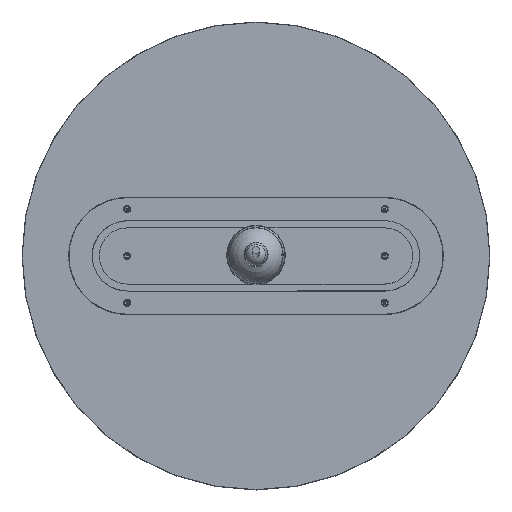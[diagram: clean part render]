
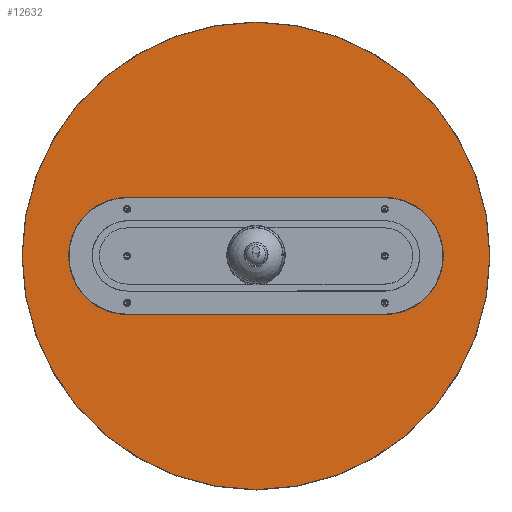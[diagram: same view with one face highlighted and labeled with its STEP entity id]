
A CAD part, top view. The second image highlights one B-rep face of the part: STEP entity #12632.
In plain terms, the highlighted planar face has unit normal (0, 0, 1).
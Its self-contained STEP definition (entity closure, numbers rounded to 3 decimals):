
#12562=CARTESIAN_POINT('',(12873.045,-3335.741,20.));
#12563=DIRECTION('',(0.,0.,1.));
#12564=DIRECTION('',(1.,0.,0.));
#12565=AXIS2_PLACEMENT_3D('',#12562,#12563,#12564);
#12566=PLANE('',#12565);
#12567=CARTESIAN_POINT('',(12928.045,-3360.841,20.));
#12568=VERTEX_POINT('',#12567);
#12569=CARTESIAN_POINT('',(12818.045,-3360.841,20.));
#12570=VERTEX_POINT('',#12569);
#12571=CARTESIAN_POINT('',(12928.045,-3360.841,20.));
#12572=DIRECTION('',(-1.,0.,0.));
#12573=VECTOR('',#12572,110.);
#12574=LINE('',#12571,#12573);
#12575=EDGE_CURVE('',#12568,#12570,#12574,.T.);
#12576=ORIENTED_EDGE('',*,*,#12575,.T.);
#12577=CARTESIAN_POINT('',(12818.045,-3310.641,20.));
#12578=VERTEX_POINT('',#12577);
#12579=CARTESIAN_POINT('',(12818.045,-3335.741,20.));
#12580=DIRECTION('',(-0.,-0.,-1.));
#12581=DIRECTION('',(1.,0.,-0.));
#12582=AXIS2_PLACEMENT_3D('',#12579,#12580,#12581);
#12583=CIRCLE('',#12582,25.1);
#12584=EDGE_CURVE('',#12570,#12578,#12583,.T.);
#12585=ORIENTED_EDGE('',*,*,#12584,.T.);
#12586=CARTESIAN_POINT('',(12928.045,-3310.641,20.));
#12587=VERTEX_POINT('',#12586);
#12588=CARTESIAN_POINT('',(12818.045,-3310.641,20.));
#12589=DIRECTION('',(1.,-0.,0.));
#12590=VECTOR('',#12589,110.);
#12591=LINE('',#12588,#12590);
#12592=EDGE_CURVE('',#12578,#12587,#12591,.T.);
#12593=ORIENTED_EDGE('',*,*,#12592,.T.);
#12594=CARTESIAN_POINT('',(12953.145,-3335.741,20.));
#12595=VERTEX_POINT('',#12594);
#12596=CARTESIAN_POINT('',(12928.045,-3335.741,20.));
#12597=DIRECTION('',(-0.,-0.,-1.));
#12598=DIRECTION('',(1.,0.,-0.));
#12599=AXIS2_PLACEMENT_3D('',#12596,#12597,#12598);
#12600=CIRCLE('',#12599,25.1);
#12601=EDGE_CURVE('',#12587,#12595,#12600,.T.);
#12602=ORIENTED_EDGE('',*,*,#12601,.T.);
#12603=CARTESIAN_POINT('',(12928.045,-3335.741,20.));
#12604=DIRECTION('',(-0.,-0.,-1.));
#12605=DIRECTION('',(1.,0.,-0.));
#12606=AXIS2_PLACEMENT_3D('',#12603,#12604,#12605);
#12607=CIRCLE('',#12606,25.1);
#12608=EDGE_CURVE('',#12595,#12568,#12607,.T.);
#12609=ORIENTED_EDGE('',*,*,#12608,.T.);
#12610=EDGE_LOOP('',(#12576,#12585,#12593,#12602,#12609));
#12611=FACE_BOUND('',#12610,.T.);
#12612=CARTESIAN_POINT('',(12972.945,-3335.741,20.));
#12613=VERTEX_POINT('',#12612);
#12614=CARTESIAN_POINT('',(12773.145,-3335.741,20.));
#12615=VERTEX_POINT('',#12614);
#12616=CARTESIAN_POINT('',(12873.045,-3335.741,20.));
#12617=DIRECTION('',(0.,0.,1.));
#12618=DIRECTION('',(1.,0.,-0.));
#12619=AXIS2_PLACEMENT_3D('',#12616,#12617,#12618);
#12620=CIRCLE('',#12619,99.9);
#12621=EDGE_CURVE('',#12613,#12615,#12620,.T.);
#12622=ORIENTED_EDGE('',*,*,#12621,.T.);
#12623=CARTESIAN_POINT('',(12873.045,-3335.741,20.));
#12624=DIRECTION('',(0.,0.,1.));
#12625=DIRECTION('',(1.,0.,-0.));
#12626=AXIS2_PLACEMENT_3D('',#12623,#12624,#12625);
#12627=CIRCLE('',#12626,99.9);
#12628=EDGE_CURVE('',#12615,#12613,#12627,.T.);
#12629=ORIENTED_EDGE('',*,*,#12628,.T.);
#12630=EDGE_LOOP('',(#12622,#12629));
#12631=FACE_BOUND('',#12630,.T.);
#12632=ADVANCED_FACE('',(#12611,#12631),#12566,.T.);
